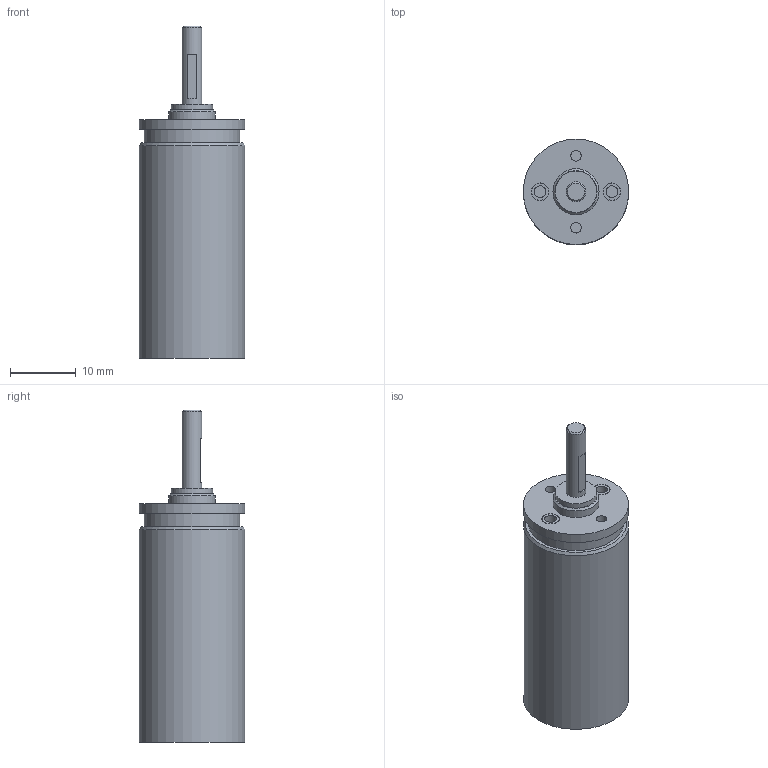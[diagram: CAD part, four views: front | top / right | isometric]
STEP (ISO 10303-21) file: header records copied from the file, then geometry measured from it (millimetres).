
FILE_DESCRIPTION(/* description */ (''),/* implementation_level */ '2;1');
FILE_NAME(/* name */ '15-5_6.stp',/* time_stamp */ '2016-08-24T14:25:29+02:00',/* author */ ('DR. FRITZ FAULHABER GmbH & Co. KG'),/* organization */ ('DR. FRITZ FAULHABER GmbH & Co. KG'),/* preprocessor_version */ 'ST-DEVELOPER v16',/* originating_system */ 'SIEMENS PLM Software NX 10.0',/* authorisation */ '');
FILE_SCHEMA (('AUTOMOTIVE_DESIGN { 1 0 10303 214 3 1 1 1 }'));
Length unit declared in the file: millimetre
Products named in the file (1): H00000512_A
Bounding box: 16 x 16 x 50.4 mm (x, y, z)
Volume: 5002.7 mm3; surface area: 3153.7 mm2
Topology: 1 solids, 1 shells, 41 faces, 64 edges, 42 vertices
Faces by surface type: plane 21, cylinder 17, cone 3
Full cylindrical faces by diameter (mm): 1.6 x2, 1.8 x2, 2.48 x1, 2.584 x2, 2.684 x2, 3 x1, 6 x1, 6.3 x1, 7 x1, 14.5 x1, 15 x1, 16 x2
Entity records: 856 total; most frequent: DIRECTION 166, CARTESIAN_POINT 126, ORIENTED_EDGE 86, AXIS2_PLACEMENT_3D 81, EDGE_LOOP 78, FACE_BOUND 69, EDGE_CURVE 43, ADVANCED_FACE 41
